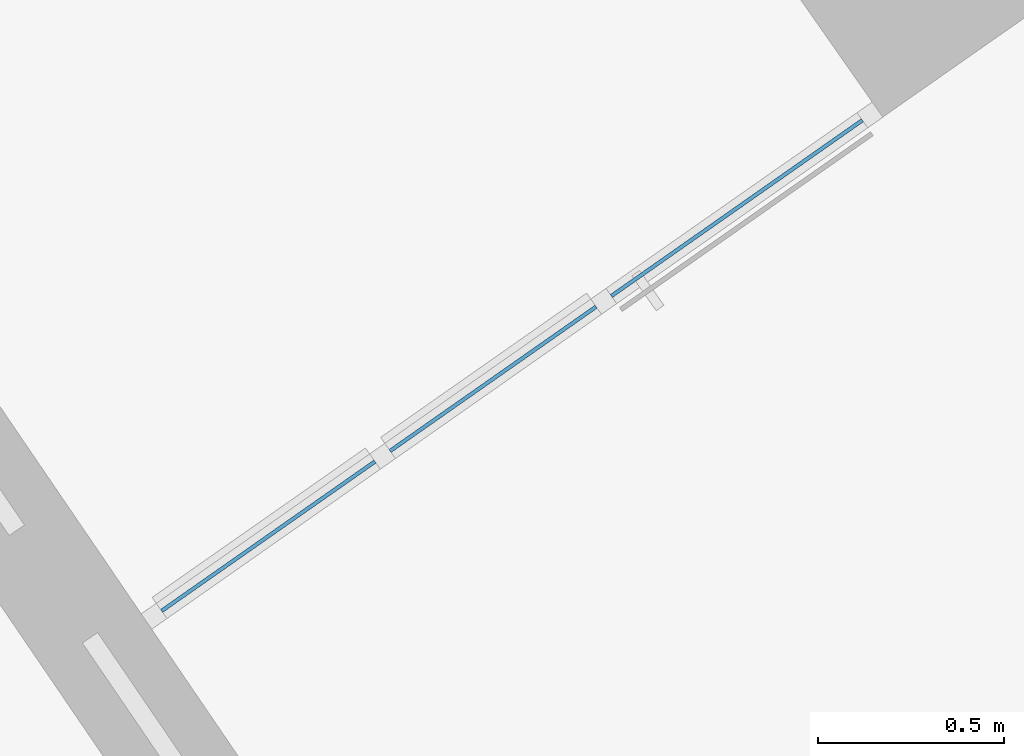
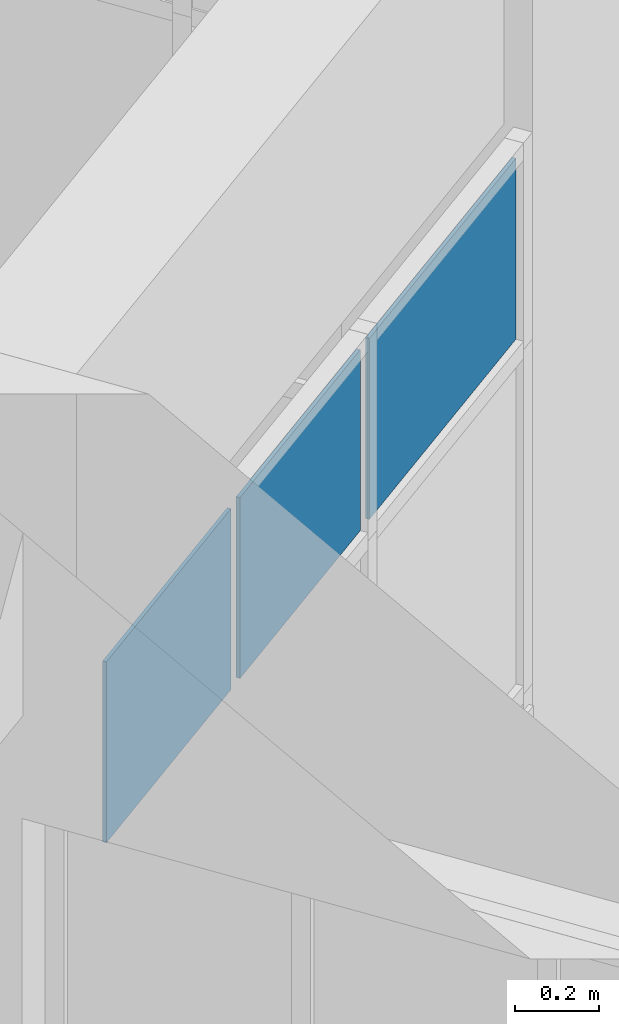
# One storey, part 52 of 157: 3 plates, 1 element without a shape of its own.
"""IFC2X3 building model written with IfcOpenShell, lengths in millimetres."""

import ifcopenshell
import ifcopenshell.guid

model = None  # the IFC model being written
_history = None  # IfcOwnerHistory: only IFC2X3 demands one
_inside = {}  # id of a spatial element -> (the spatial element, [elements in it])
_under = {}  # id of a project, library or spatial element -> (it, [spatial elements below it])
_declared = {}  # id of a project -> (the project, [libraries it declares])
_typed = {}  # id of a type object -> (the type object, [elements of that type])
_made_of = {}  # id of a material, layer set ... -> (it, [elements and type objects made of it])


def new_model(schema):
    """Start an empty IFC model of exactly this schema.

    Asked for "IFC4X3", IfcOpenShell would pick the latest addendum, in which some entities
    have other attributes; the version numbers below select the first issue.
    IFC2X3 requires an IfcOwnerHistory on every rooted entity: one is made here for all.
    """
    global model, _history
    if schema == "IFC4X3":
        model = ifcopenshell.file(schema_version=(4, 3, 0, 0))
    else:
        model = ifcopenshell.file(schema=schema)
    _inside.clear()
    _under.clear()
    _declared.clear()
    _typed.clear()
    _made_of.clear()
    _history = None
    if model.schema == "IFC2X3":
        org = make("IfcOrganization", Name="unknown")
        user = make(
            "IfcPersonAndOrganization",
            ThePerson=make("IfcPerson", FamilyName="unknown"),
            TheOrganization=org,
        )
        app = make(
            "IfcApplication",
            ApplicationDeveloper=org,
            Version="unknown",
            ApplicationFullName="unknown",
            ApplicationIdentifier="unknown",
        )
        _history = make(
            "IfcOwnerHistory",
            OwningUser=user,
            OwningApplication=app,
            ChangeAction="ADDED",
            CreationDate=0,
        )
    return model


def make(cls, **values):
    """One entity of the class cls with the attributes given. An attribute that is None is left unset."""
    return model.create_entity(
        cls, **{name: value for name, value in values.items() if value is not None}
    )


def entity(cls, *values):
    """Any entity or typed value of the class cls, its attributes in the order of the schema. None: left unset."""
    e = model.create_entity(cls)
    for i, value in enumerate(values):
        if value is not None:
            e[i] = value
    return e


def rooted(cls, **values):
    """An entity with a GlobalId (a new one), such as an element, a storey or a relation."""
    return make(cls, GlobalId=ifcopenshell.guid.new(), OwnerHistory=_history, **values)


def si_unit(unit_type, name, prefix=None):
    """IfcSIUnit, for example si_unit("LENGTHUNIT", "METRE", prefix="MILLI")."""
    return make("IfcSIUnit", UnitType=unit_type, Prefix=prefix, Name=name)


def converted_unit(unit_type, name, factor, base, dimensions=None, offset=None):
    """IfcConversionBasedUnit, such as the inch: factor (a typed value) times the base unit."""
    return make(
        "IfcConversionBasedUnit"
        if offset is None
        else "IfcConversionBasedUnitWithOffset",
        ConversionOffset=offset,
        Dimensions=None
        if dimensions is None
        else entity("IfcDimensionalExponents", *dimensions),
        UnitType=unit_type,
        Name=name,
        ConversionFactor=make(
            "IfcMeasureWithUnit", ValueComponent=factor, UnitComponent=base
        ),
    )


def derived_unit(unit_type, elements):
    """IfcDerivedUnit: a product of units, each with its exponent."""
    return make(
        "IfcDerivedUnit",
        Elements=[
            make("IfcDerivedUnitElement", Unit=unit, Exponent=power)
            for unit, power in elements
        ],
        UnitType=unit_type,
    )


def assignment(units):
    """IfcUnitAssignment: the units of a project."""
    return None if units is None else make("IfcUnitAssignment", Units=units)


def point(xyz):
    """IfcCartesianPoint."""
    return None if xyz is None else make("IfcCartesianPoint", Coordinates=xyz)


def direction(xyz):
    """IfcDirection."""
    return None if xyz is None else make("IfcDirection", DirectionRatios=xyz)


def frame(location, z_axis=None, x_axis=None):
    """IfcAxis2Placement3D, a coordinate frame: its origin and axes. An axis left out is left unset."""
    return make(
        "IfcAxis2Placement3D",
        Location=point(location),
        Axis=direction(z_axis),
        RefDirection=direction(x_axis),
    )


def frame_2d(location, x_axis=None):
    """IfcAxis2Placement2D, a coordinate frame in the plane: its origin and x axis."""
    return make(
        "IfcAxis2Placement2D", Location=point(location), RefDirection=direction(x_axis)
    )


def origin():
    """The frame at (0, 0, 0) with its axes left unset."""
    return frame((0.0, 0.0, 0.0))


def origin_2d_with_axis():
    """The frame at (0, 0) in the plane with the x axis (1, 0) written out."""
    return frame_2d((0.0, 0.0), x_axis=(1.0, 0.0))


def place(relative_to, where):
    """IfcLocalPlacement: puts the frame where relative to a parent placement (None: the world)."""
    return make(
        "IfcLocalPlacement", PlacementRelTo=relative_to, RelativePlacement=where
    )


def context(
    kind, dimensions, precision=None, world=None, true_north=None, identifier=None
):
    """IfcGeometricRepresentationContext, for example the 3D "Model" context."""
    return make(
        "IfcGeometricRepresentationContext",
        ContextIdentifier=identifier,
        ContextType=kind,
        CoordinateSpaceDimension=dimensions,
        Precision=precision,
        WorldCoordinateSystem=world,
        TrueNorth=true_north,
    )


def subcontext(parent, identifier, kind, view, scale=None):
    """IfcGeometricRepresentationSubContext, for example "Body" below "Model"."""
    return make(
        "IfcGeometricRepresentationSubContext",
        ContextIdentifier=identifier,
        ContextType=kind,
        ParentContext=parent,
        TargetScale=scale,
        TargetView=view,
    )


def project(units=None, contexts=None):
    """IfcProject with its units and contexts."""
    return rooted(
        "IfcProject",
        Name="project",
        RepresentationContexts=contexts,
        UnitsInContext=assignment(units),
    )


def spatial(cls, under=None, at=None, **own):
    """A site, building, storey or space (cls), placed at a placement, below another one or the project."""
    s = rooted(cls, ObjectPlacement=at, **own)
    if under is not None:
        _under.setdefault(under.id(), (under, []))[1].append(s)
    return s


def profile(cls, at=None, kind="AREA", **sizes):
    """A parametric profile (cls). Its sizes go by their IFC names, for example OverallWidth=200.0."""
    return make(cls, ProfileType=kind, Position=at, **sizes)


def rectangle(**sizes):
    """IfcRectangleProfileDef."""
    return profile("IfcRectangleProfileDef", **sizes)


def extrude(swept, where, along, depth):
    """IfcExtrudedAreaSolid: the profile swept, set in the frame where, extruded along a direction by depth."""
    return make(
        "IfcExtrudedAreaSolid",
        SweptArea=swept,
        Position=where,
        ExtrudedDirection=direction(along),
        Depth=depth,
    )


def shape(context_of_items, identifier, shape_type, items):
    """IfcShapeRepresentation: the items that make up one representation, for example the "Body"."""
    return make(
        "IfcShapeRepresentation",
        ContextOfItems=context_of_items,
        RepresentationIdentifier=identifier,
        RepresentationType=shape_type,
        Items=items,
    )


def source(mapping_origin, context_of_items, identifier, shape_type, items):
    """IfcRepresentationMap: a shape defined once, which mapped items show again and again."""
    return make(
        "IfcRepresentationMap",
        MappingOrigin=mapping_origin,
        MappedRepresentation=shape(context_of_items, identifier, shape_type, items),
    )


def transform(
    local_origin,
    x_axis=None,
    y_axis=None,
    z_axis=None,
    scale=None,
    scale2=None,
    scale3=None,
    uniform=True,
):
    """IfcCartesianTransformationOperator3D, or its non-uniform kind. x_axis, y_axis, z_axis: its Axis1, 2, 3."""
    if uniform:
        return make(
            "IfcCartesianTransformationOperator3D",
            Axis1=direction(x_axis),
            Axis2=direction(y_axis),
            LocalOrigin=point(local_origin),
            Scale=scale,
            Axis3=direction(z_axis),
        )
    return make(
        "IfcCartesianTransformationOperator3DnonUniform",
        Axis1=direction(x_axis),
        Axis2=direction(y_axis),
        LocalOrigin=point(local_origin),
        Scale=scale,
        Axis3=direction(z_axis),
        Scale2=scale2,
        Scale3=scale3,
    )


def mapped(mapping_source, mapping_target):
    """IfcMappedItem: shows the shape of a source again, moved by a transform."""
    return make(
        "IfcMappedItem", MappingSource=mapping_source, MappingTarget=mapping_target
    )


def material(Name=None, Category=None):
    """IfcMaterial."""
    return make("IfcMaterial", Name=Name, Category=Category)


def made_of(thing, what):
    """Note that an element or type object is made of a material, layer set ...; save() writes the relation."""
    if what is not None:
        _made_of.setdefault(what.id(), (what, []))[1].append(thing)
    return thing


def type_object(cls, material=None, **own):
    """A type object (cls), such as IfcWallType, which elements share."""
    return made_of(rooted(cls, **own), material)


def type_shapes(of_type, sources):
    """Give a type object the sources (RepresentationMaps) that its elements show as mapped items."""
    of_type.RepresentationMaps = sources


def element(
    cls,
    number,
    at=None,
    inside=None,
    cuts=None,
    type_object=None,
    material=None,
    context=None,
    identifier="Body",
    shape_type=None,
    held_by="IfcProductDefinitionShape",
    body=None,
    shapes=None,
    **own,
):
    """One element of the class cls, such as IfcWall. Its Tag is "e" and its number.

    at: its placement. inside: the storey or other place that contains it. cuts: it is an
    opening in that element (IfcRelVoidsElement). A single representation is given by context,
    identifier, shape_type and body (its items); several are given by shapes. held_by: the class
    of the entity that holds the representations. save() writes the other relations.
    """
    e = rooted(cls, Tag="e%d" % number, ObjectPlacement=at, **own)
    if body is not None:
        shapes = [shape(context, identifier, shape_type, body)]
    if shapes is not None:
        e.Representation = make(held_by, Representations=shapes)
    if inside is not None:
        _inside.setdefault(inside.id(), (inside, []))[1].append(e)
    if cuts is not None:
        rooted(
            "IfcRelVoidsElement", RelatingBuildingElement=cuts, RelatedOpeningElement=e
        )
    if type_object is not None:
        _typed.setdefault(type_object.id(), (type_object, []))[1].append(e)
    return made_of(e, material)


def aggregate(whole, parts):
    """IfcRelAggregates: a whole, such as a stair, and the parts it consists of."""
    return rooted("IfcRelAggregates", RelatingObject=whole, RelatedObjects=parts)


def save(model, path):
    """Write the relations noted so far, then the file.

    IfcRelAggregates (storeys below a building ...), IfcRelContainedInSpatialStructure (elements
    in a storey), IfcRelDefinesByType, IfcRelAssociatesMaterial and IfcRelDeclares: one each for
    every whole, place, type object, material and project.
    """
    for whole, parts in _under.values():
        aggregate(whole, parts)
    for where, things in _inside.values():
        rooted(
            "IfcRelContainedInSpatialStructure",
            RelatedElements=things,
            RelatingStructure=where,
        )
    for kind, things in _typed.values():
        rooted("IfcRelDefinesByType", RelatedObjects=things, RelatingType=kind)
    for what, things in _made_of.values():
        rooted("IfcRelAssociatesMaterial", RelatedObjects=things, RelatingMaterial=what)
    for by, libraries in _declared.values():
        rooted("IfcRelDeclares", RelatingContext=by, RelatedDefinitions=libraries)
    model.write(path)


model = new_model("IFC2X3")

# Units and contexts
model_context = context("Model", 3, precision=0.01, world=origin(), true_north=direction((6.123031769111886e-17, 1.0)))
body_context = subcontext(model_context, "Body", "Model", "MODEL_VIEW")
ifc_project = project(units=[si_unit("LENGTHUNIT", "METRE", prefix="MILLI"), si_unit("AREAUNIT", "SQUARE_METRE"), si_unit("VOLUMEUNIT", "CUBIC_METRE"), converted_unit("PLANEANGLEUNIT", "DEGREE", entity("IfcRatioMeasure", 0.017453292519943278), si_unit("PLANEANGLEUNIT", "RADIAN"), dimensions=[0, 0, 0, 0, 0, 0, 0]), si_unit("MASSUNIT", "GRAM", prefix="KILO"), derived_unit("MASSDENSITYUNIT", [(si_unit("MASSUNIT", "GRAM", prefix="KILO"), 1), (si_unit("LENGTHUNIT", "METRE"), -3)]), derived_unit("MOMENTOFINERTIAUNIT", [(si_unit("LENGTHUNIT", "METRE"), 4)]), si_unit("TIMEUNIT", "SECOND"), si_unit("FREQUENCYUNIT", "HERTZ"), si_unit("THERMODYNAMICTEMPERATUREUNIT", "DEGREE_CELSIUS"), derived_unit("THERMALTRANSMITTANCEUNIT", [(si_unit("MASSUNIT", "GRAM", prefix="KILO"), 1), (si_unit("THERMODYNAMICTEMPERATUREUNIT", "KELVIN"), -1), (si_unit("TIMEUNIT", "SECOND"), -3)]), derived_unit("THERMALCONDUCTANCEUNIT", [(si_unit("MASSUNIT", "GRAM", prefix="KILO"), 1), (si_unit("LENGTHUNIT", "METRE"), 1), (si_unit("THERMODYNAMICTEMPERATUREUNIT", "KELVIN"), -1), (si_unit("TIMEUNIT", "SECOND"), -3)]), derived_unit("VOLUMETRICFLOWRATEUNIT", [(si_unit("LENGTHUNIT", "METRE"), 3), (si_unit("TIMEUNIT", "SECOND"), -1)]), derived_unit("MASSFLOWRATEUNIT", [(si_unit("MASSUNIT", "GRAM", prefix="KILO"), 1), (si_unit("TIMEUNIT", "SECOND"), -1)]), derived_unit("ROTATIONALFREQUENCYUNIT", [(si_unit("TIMEUNIT", "SECOND"), -1)]), si_unit("ELECTRICCURRENTUNIT", "AMPERE"), si_unit("ELECTRICVOLTAGEUNIT", "VOLT"), si_unit("POWERUNIT", "WATT"), converted_unit("FORCEUNIT", "KIP", entity("IfcRatioMeasure", 2.088543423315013e-05), si_unit("FORCEUNIT", "NEWTON"), dimensions=[1, 1, -2, 0, 0, 0, 0]), si_unit("ILLUMINANCEUNIT", "LUX"), si_unit("LUMINOUSFLUXUNIT", "LUMEN"), si_unit("LUMINOUSINTENSITYUNIT", "CANDELA"), derived_unit("USERDEFINED", [(si_unit("MASSUNIT", "GRAM", prefix="KILO"), -1), (si_unit("LENGTHUNIT", "METRE"), -2), (si_unit("TIMEUNIT", "SECOND"), 3), (si_unit("LUMINOUSFLUXUNIT", "LUMEN"), 1)]), derived_unit("USERDEFINED", [(si_unit("MASSUNIT", "GRAM", prefix="KILO"), 1), (si_unit("LENGTHUNIT", "METRE"), 3), (si_unit("TIMEUNIT", "SECOND"), -3), (si_unit("ELECTRICCURRENTUNIT", "AMPERE"), -2)]), derived_unit("USERDEFINED", [(si_unit("LENGTHUNIT", "METRE"), 2), (si_unit("TIMEUNIT", "SECOND"), -2)]), derived_unit("SOUNDPOWERUNIT", [(si_unit("MASSUNIT", "GRAM", prefix="KILO"), 1), (si_unit("LENGTHUNIT", "METRE"), 2), (si_unit("TIMEUNIT", "SECOND"), -3)]), derived_unit("SOUNDPRESSUREUNIT", [(si_unit("MASSUNIT", "GRAM", prefix="KILO"), 1), (si_unit("LENGTHUNIT", "METRE"), -1), (si_unit("TIMEUNIT", "SECOND"), -2)]), derived_unit("LINEARVELOCITYUNIT", [(si_unit("LENGTHUNIT", "METRE"), 1), (si_unit("TIMEUNIT", "SECOND"), -1)]), si_unit("PRESSUREUNIT", "PASCAL"), derived_unit("USERDEFINED", [(si_unit("LENGTHUNIT", "METRE"), -2), (si_unit("MASSUNIT", "GRAM", prefix="KILO"), 1), (si_unit("TIMEUNIT", "SECOND"), -2)]), derived_unit("LINEARFORCEUNIT", [(si_unit("MASSUNIT", "GRAM", prefix="KILO"), 1), (si_unit("LENGTHUNIT", "METRE"), 1), (si_unit("TIMEUNIT", "SECOND"), -2), (si_unit("LENGTHUNIT", "METRE"), -1)]), derived_unit("PLANARFORCEUNIT", [(si_unit("MASSUNIT", "GRAM", prefix="KILO"), 1), (si_unit("LENGTHUNIT", "METRE"), 1), (si_unit("TIMEUNIT", "SECOND"), -2), (si_unit("LENGTHUNIT", "METRE"), -2)]), derived_unit("SPECIFICHEATCAPACITYUNIT", [(si_unit("LENGTHUNIT", "METRE"), 2), (si_unit("TIMEUNIT", "SECOND"), -2), (si_unit("THERMODYNAMICTEMPERATUREUNIT", "KELVIN"), -1)]), derived_unit("VAPORPERMEABILITYUNIT", [(si_unit("TIMEUNIT", "SECOND"), 1), (si_unit("LENGTHUNIT", "METRE"), -1)]), derived_unit("DYNAMICVISCOSITYUNIT", [(si_unit("MASSUNIT", "GRAM", prefix="KILO"), 1), (si_unit("LENGTHUNIT", "METRE"), -1), (si_unit("TIMEUNIT", "SECOND"), -1)]), derived_unit("THERMALEXPANSIONCOEFFICIENTUNIT", [(si_unit("THERMODYNAMICTEMPERATUREUNIT", "KELVIN"), -1)])], contexts=[model_context])

# Site, building, storey
site_placement = place(None, frame((0.0, 0.0, 0.0), z_axis=(0.0, 0.0, 1.0), x_axis=(0.8191520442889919, 0.5735764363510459, 0.0)))
site = spatial("IfcSite", under=ifc_project, at=site_placement, Name="Default", CompositionType="ELEMENT")
building_placement = place(site_placement, origin())
building = spatial("IfcBuilding", under=site, at=building_placement, CompositionType="ELEMENT")
storey_placement = place(building_placement, origin())
storey = spatial("IfcBuildingStorey", under=building, at=storey_placement, Name="1.EG +0.00", CompositionType="ELEMENT", Elevation=-4.331468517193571e-12)

# Curtain wall, plates
curtain_wall_type = type_object("IfcCurtainWallType", Name="Curtain Wall:Curtain_Wall_CJC_Int5", PredefinedType="NOTDEFINED")
curtain_wall_placement = place(storey_placement, origin())
curtain_wall = element("IfcCurtainWall", 1, at=curtain_wall_placement, inside=storey, type_object=curtain_wall_type, Name="Curtain Wall:Curtain_Wall_CJC_Int5", ObjectType="Curtain Wall:Curtain_Wall_CJC_Int5")
ifc_material = material(Name="Glass")
plate_type_1 = type_object("IfcPlateType", Name="System Panel:Glazed_CJC", PredefinedType="CURTAIN_PANEL", material=ifc_material)
shared_shape_1 = source(origin(), body_context, "Body", "SweptSolid", [
    extrude(rectangle(XDim=10.0, YDim=701.0338390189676, at=origin_2d_with_axis()), frame((0.0, 0.0, 0.0), z_axis=(0.0, 0.0, 1.0), x_axis=(0.0, 1.0, 0.0)), (0.0, 0.0, 1.0), 525.0000000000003),
])
type_shapes(plate_type_1, [shared_shape_1])
plate_1_placement = place(curtain_wall_placement, frame((-213989.7689333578, 67171.35891435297, 3125.0)))
plate_1 = element("IfcPlate", 2, at=plate_1_placement, type_object=plate_type_1, material=ifc_material, Name="System Panel:Glazed_CJC", ObjectType="System Panel:Glazed_CJC", context=body_context, shape_type="MappedRepresentation", body=[
    mapped(shared_shape_1, transform((0.0, 0.0, 0.0), scale=1.0)),
])
plate_type_2 = type_object("IfcPlateType", Name="System Panel:Glazed_CJC", PredefinedType="CURTAIN_PANEL", material=ifc_material)
shared_shape_2 = source(origin(), body_context, "Body", "SweptSolid", [
    extrude(rectangle(XDim=10.0, YDim=677.0676777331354, at=origin_2d_with_axis()), frame((0.0, 0.0, 0.0), z_axis=(0.0, 0.0, 1.0), x_axis=(0.0, 1.0, 0.0)), (0.0, 0.0, 1.0), 525.0000000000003),
])
type_shapes(plate_type_2, [shared_shape_2])
plate_2_placement = place(curtain_wall_placement, frame((-213250.71817498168, 67171.35891435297, 3125.0)))
plate_2 = element("IfcPlate", 3, at=plate_2_placement, type_object=plate_type_2, material=ifc_material, Name="System Panel:Glazed_CJC", ObjectType="System Panel:Glazed_CJC", context=body_context, shape_type="MappedRepresentation", body=[
    mapped(shared_shape_2, transform((0.0, 0.0, 0.0), scale=1.0)),
])
plate_type_3 = type_object("IfcPlateType", Name="System Panel:Glazed_CJC", PredefinedType="CURTAIN_PANEL", material=ifc_material)
shared_shape_3 = source(origin(), body_context, "Body", "SweptSolid", [
    extrude(rectangle(XDim=10.0, YDim=824.9999999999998, at=origin_2d_with_axis()), frame((0.0, 0.0, 0.0), z_axis=(0.0, 0.0, 1.0), x_axis=(0.0, 1.0, 0.0)), (0.0, 0.0, 1.0), 525.0000000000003),
])
type_shapes(plate_type_3, [shared_shape_3])
plate_3_placement = place(curtain_wall_placement, frame((-212449.68433611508, 67171.35891435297, 3125.0)))
plate_3 = element("IfcPlate", 4, at=plate_3_placement, type_object=plate_type_3, material=ifc_material, Name="System Panel:Glazed_CJC", ObjectType="System Panel:Glazed_CJC", context=body_context, shape_type="MappedRepresentation", body=[
    mapped(shared_shape_3, transform((0.0, 0.0, 0.0), scale=1.0)),
])
aggregate(curtain_wall, [plate_1, plate_2, plate_3])

save(model, "model.ifc")
